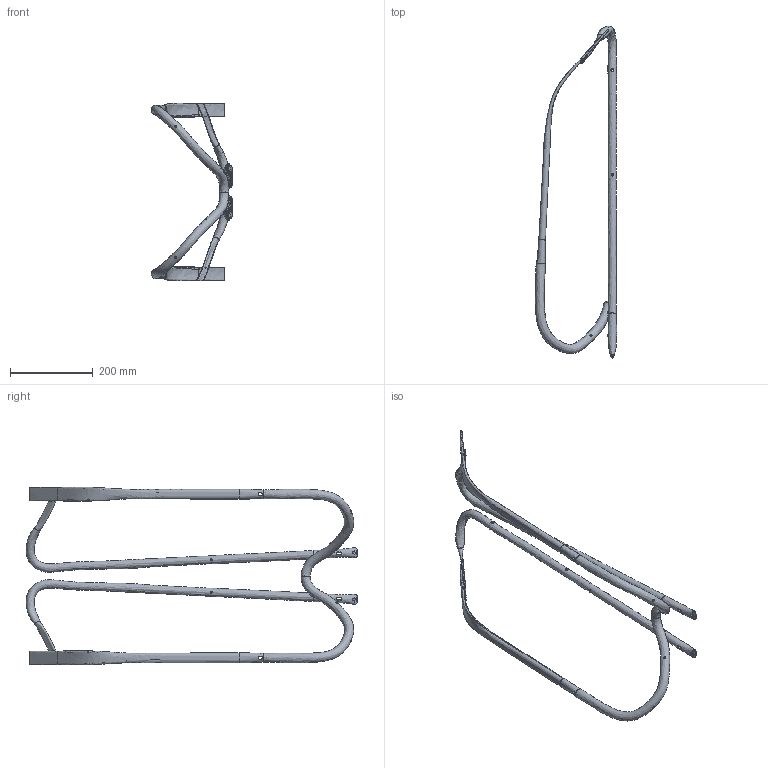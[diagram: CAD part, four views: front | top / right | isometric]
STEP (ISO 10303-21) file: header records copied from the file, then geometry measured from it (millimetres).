
FILE_DESCRIPTION(/* description */ ('STEP AP242','CAx-IF Rec.Pracs.---Representation and Presentation of Product Manufacturing Information (PMI)---4.0---2014-10-13','CAx-IF Rec.Pracs.---3D Tessellated Geometry---0.4---2014-09-14','2;1'),/* implementation_level */ '2;1');
FILE_NAME(/* name */ '6747524ac8b5b618301c98e8',/* time_stamp */ '2024-11-27T17:09:32Z',/* author */ (''),/* organization */ (''),/* preprocessor_version */ 'ST-DEVELOPER v20',/* originating_system */ 'ONSHAPE BY PTC INC, 1.190',/* authorisation */ ' ');
FILE_SCHEMA (('AP242_MANAGED_MODEL_BASED_3D_ENGINEERING_MIM_LF { 1 0 10303 442 1 1 4 }'));
Products named in the file (1): styrkapa_v2
Bounding box: 196.59 x 801.14 x 429.53 mm (x, y, z)
Volume: 270307.7 mm3; surface area: 505890.2 mm2
Topology: 1 solids, 1 shells, 174 faces, 545 edges, 357 vertices
Faces by surface type: bspline 126, cylinder 30, plane 18
Full cylindrical faces by diameter (mm): 4 x8, 5 x4, 5.2 x4, 6 x4
Entity records: 61019 total; most frequent: CARTESIAN_POINT 58057, ORIENTED_EDGE 730, EDGE_CURVE 365, B_SPLINE_CURVE_WITH_KNOTS 309, EDGE_LOOP 308, FACE_BOUND 308, VERTEX_POINT 265, DIRECTION 186
